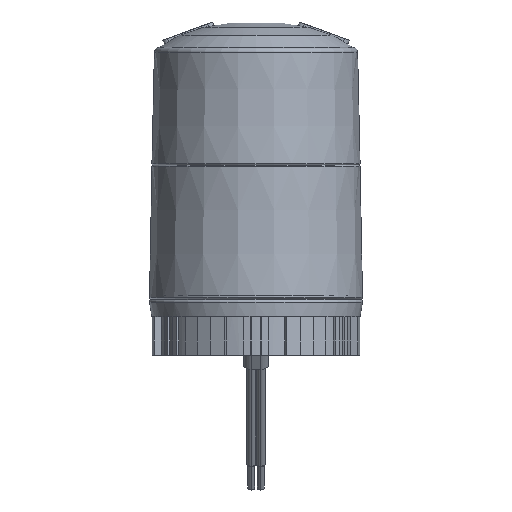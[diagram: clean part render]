
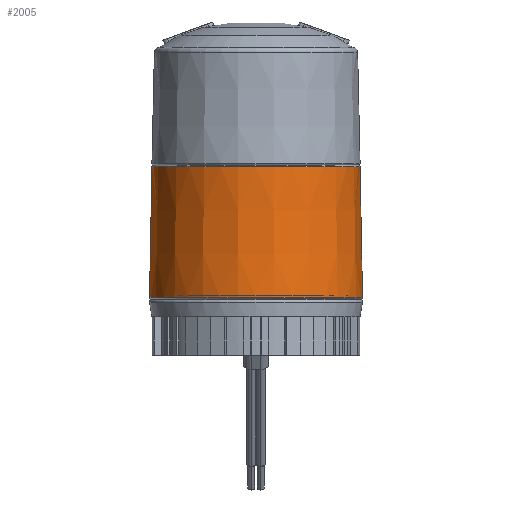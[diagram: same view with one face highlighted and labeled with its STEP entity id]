
A CAD part, left-side view. The second image highlights one B-rep face of the part: STEP entity #2005.
In plain terms, the highlighted conical face has half-angle 1.061 degrees and reference radius 21.75 mm.
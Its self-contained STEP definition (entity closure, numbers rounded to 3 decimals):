
#2005=ADVANCED_FACE('',(#5425),#5426,.T.);
#2277=EDGE_CURVE('',#4475,#3649,#5726,.T.);
#2507=EDGE_CURVE('',#4475,#3989,#5980,.T.);
#3649=VERTEX_POINT('',#7215);
#3911=VERTEX_POINT('',#7500);
#3989=VERTEX_POINT('',#7585);
#4383=EDGE_CURVE('',#3989,#3911,#8016,.T.);
#4475=VERTEX_POINT('',#8120);
#4831=EDGE_CURVE('',#3911,#3649,#8517,.T.);
#5425=FACE_OUTER_BOUND('',#9286,.T.);
#5426=CONICAL_SURFACE('',#9287,21.75,0.019);
#5726=CIRCLE('',#9711,21.5);
#5980=LINE('',#10124,#10125);
#7215=CARTESIAN_POINT('',(0.0,-21.5,39.));
#7500=CARTESIAN_POINT('',(0.0,-22.0,12.));
#7585=CARTESIAN_POINT('',(0.,22.0,12.));
#8016=CIRCLE('',#13820,22.0);
#8120=CARTESIAN_POINT('',(0.,21.5,39.));
#8517=LINE('',#14649,#14650);
#9286=EDGE_LOOP('',(#15571,#15572,#15573,#15574));
#9287=AXIS2_PLACEMENT_3D('',#15575,#15576,#15577);
#9711=AXIS2_PLACEMENT_3D('',#15891,#15892,#15893);
#10124=CARTESIAN_POINT('',(0.,21.75,25.5));
#10125=VECTOR('',#16172,1.0);
#13820=AXIS2_PLACEMENT_3D('',#18356,#18357,#18358);
#14649=CARTESIAN_POINT('',(0.,-21.75,25.5));
#14650=VECTOR('',#19047,1.0);
#15571=ORIENTED_EDGE('',*,*,#4831,.T.);
#15572=ORIENTED_EDGE('',*,*,#2277,.F.);
#15573=ORIENTED_EDGE('',*,*,#2507,.T.);
#15574=ORIENTED_EDGE('',*,*,#4383,.T.);
#15575=CARTESIAN_POINT('',(0.0,0.0,25.5));
#15576=DIRECTION('',(0.0,0.0,-1.0));
#15577=DIRECTION('',(0.0,-1.0,0.0));
#15891=CARTESIAN_POINT('',(0.0,0.0,39.));
#15892=DIRECTION('',(0.0,0.0,1.0));
#15893=DIRECTION('',(0.0,-1.0,0.0));
#16172=DIRECTION('',(0.,0.019,-1.));
#18356=CARTESIAN_POINT('',(0.0,0.0,12.));
#18357=DIRECTION('',(0.0,0.0,1.0));
#18358=DIRECTION('',(0.0,-1.0,0.0));
#19047=DIRECTION('',(0.,0.019,1.));
